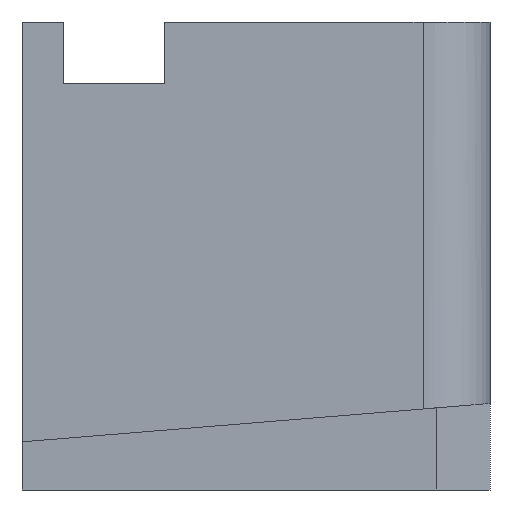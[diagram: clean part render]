
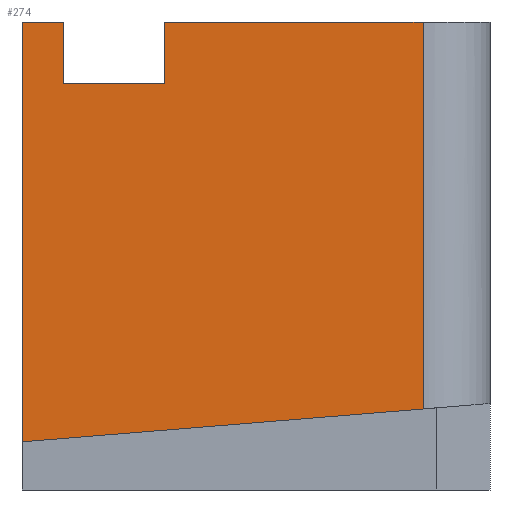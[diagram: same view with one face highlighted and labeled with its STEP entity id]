
A CAD part, front view. The second image highlights one B-rep face of the part: STEP entity #274.
In plain terms, the highlighted planar face has unit normal (0, -1, 0).
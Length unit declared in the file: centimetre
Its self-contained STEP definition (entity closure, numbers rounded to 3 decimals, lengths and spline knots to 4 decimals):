
#64 = DIRECTION ( 'NONE',  ( 0., 0., 1. ) ) ;
#129 = CARTESIAN_POINT ( 'NONE',  ( 1000., 0., 184.8705 ) ) ;
#153 = CARTESIAN_POINT ( 'NONE',  ( 856.8946, 0., 173.1565 ) ) ;
#160 = LINE ( 'NONE', #1050, #1381 ) ;
#161 = VECTOR ( 'NONE', #1249, 100. ) ;
#176 = EDGE_CURVE ( 'NONE', #973, #640, #1174, .T. ) ;
#181 = LINE ( 'NONE', #504, #1179 ) ;
#193 = DIRECTION ( 'NONE',  ( 0., 1., 0. ) ) ;
#204 = CARTESIAN_POINT ( 'NONE',  ( 0., 0., 1000. ) ) ;
#211 = LINE ( 'NONE', #847, #968 ) ;
#219 = DIRECTION ( 'NONE',  ( 0., 0., -1. ) ) ;
#237 = VECTOR ( 'NONE', #300, 100. ) ;
#250 = ORIENTED_EDGE ( 'NONE', *, *, #345, .T. ) ;
#274 = ADVANCED_FACE ( 'NONE', ( #1208 ), #849, .F. ) ;
#280 = VECTOR ( 'NONE', #219, 100. ) ;
#300 = DIRECTION ( 'NONE',  ( 1., 0., 0. ) ) ;
#337 = VERTEX_POINT ( 'NONE', #719 ) ;
#345 = EDGE_CURVE ( 'NONE', #463, #337, #160, .T. ) ;
#350 = VERTEX_POINT ( 'NONE', #1172 ) ;
#362 = EDGE_CURVE ( 'NONE', #1022, #337, #181, .T. ) ;
#421 = CARTESIAN_POINT ( 'NONE',  ( 89.374, 0., 868.2741 ) ) ;
#445 = CARTESIAN_POINT ( 'NONE',  ( 304.0528, 0., 868.2741 ) ) ;
#463 = VERTEX_POINT ( 'NONE', #421 ) ;
#504 = CARTESIAN_POINT ( 'NONE',  ( 0., 0., 1000. ) ) ;
#505 = EDGE_CURVE ( 'NONE', #1022, #350, #211, .T. ) ;
#512 = ORIENTED_EDGE ( 'NONE', *, *, #717, .F. ) ;
#513 = EDGE_CURVE ( 'NONE', #973, #808, #1303, .T. ) ;
#521 = ORIENTED_EDGE ( 'NONE', *, *, #362, .F. ) ;
#522 = CARTESIAN_POINT ( 'NONE',  ( 304.0528, 0., 1000. ) ) ;
#568 = DIRECTION ( 'NONE',  ( -0.997, 0., -0.082 ) ) ;
#586 = CARTESIAN_POINT ( 'NONE',  ( 304.0528, 0., 868.2741 ) ) ;
#640 = VERTEX_POINT ( 'NONE', #671 ) ;
#671 = CARTESIAN_POINT ( 'NONE',  ( 856.8946, 0., 1000. ) ) ;
#706 = VERTEX_POINT ( 'NONE', #153 ) ;
#710 = AXIS2_PLACEMENT_3D ( 'NONE', #736, #193, #1066 ) ;
#717 = EDGE_CURVE ( 'NONE', #706, #350, #923, .T. ) ;
#719 = CARTESIAN_POINT ( 'NONE',  ( 89.374, 0., 1000. ) ) ;
#721 = VECTOR ( 'NONE', #1203, 100. ) ;
#728 = DIRECTION ( 'NONE',  ( 1., 0., 0. ) ) ;
#735 = VECTOR ( 'NONE', #568, 100. ) ;
#736 = CARTESIAN_POINT ( 'NONE',  ( 0., 0., 1000. ) ) ;
#808 = VERTEX_POINT ( 'NONE', #586 ) ;
#831 = ORIENTED_EDGE ( 'NONE', *, *, #1009, .T. ) ;
#847 = CARTESIAN_POINT ( 'NONE',  ( 0., 0., 1000. ) ) ;
#848 = EDGE_CURVE ( 'NONE', #706, #640, #1132, .T. ) ;
#849 = PLANE ( 'NONE',  #710 ) ;
#854 = ORIENTED_EDGE ( 'NONE', *, *, #505, .T. ) ;
#855 = DIRECTION ( 'NONE',  ( 0., 0., -1. ) ) ;
#858 = ORIENTED_EDGE ( 'NONE', *, *, #848, .T. ) ;
#883 = ORIENTED_EDGE ( 'NONE', *, *, #513, .T. ) ;
#923 = LINE ( 'NONE', #129, #735 ) ;
#942 = CARTESIAN_POINT ( 'NONE',  ( 89.374, 0., 868.2741 ) ) ;
#968 = VECTOR ( 'NONE', #855, 100. ) ;
#973 = VERTEX_POINT ( 'NONE', #522 ) ;
#1009 = EDGE_CURVE ( 'NONE', #808, #463, #1397, .T. ) ;
#1022 = VERTEX_POINT ( 'NONE', #1196 ) ;
#1028 = CARTESIAN_POINT ( 'NONE',  ( 856.8946, 0., 1000. ) ) ;
#1050 = CARTESIAN_POINT ( 'NONE',  ( 89.374, 0., 868.2741 ) ) ;
#1066 = DIRECTION ( 'NONE',  ( 0., 0., 1. ) ) ;
#1132 = LINE ( 'NONE', #1028, #161 ) ;
#1172 = CARTESIAN_POINT ( 'NONE',  ( 0., 0., 103.0146 ) ) ;
#1174 = LINE ( 'NONE', #204, #237 ) ;
#1179 = VECTOR ( 'NONE', #728, 100. ) ;
#1196 = CARTESIAN_POINT ( 'NONE',  ( 0., 0., 1000. ) ) ;
#1203 = DIRECTION ( 'NONE',  ( -1., 0., 0. ) ) ;
#1208 = FACE_OUTER_BOUND ( 'NONE', #1348, .T. ) ;
#1249 = DIRECTION ( 'NONE',  ( 0., 0., 1. ) ) ;
#1302 = ORIENTED_EDGE ( 'NONE', *, *, #176, .F. ) ;
#1303 = LINE ( 'NONE', #445, #280 ) ;
#1348 = EDGE_LOOP ( 'NONE', ( #854, #512, #858, #1302, #883, #831, #250, #521 ) ) ;
#1381 = VECTOR ( 'NONE', #64, 100. ) ;
#1397 = LINE ( 'NONE', #942, #721 ) ;
